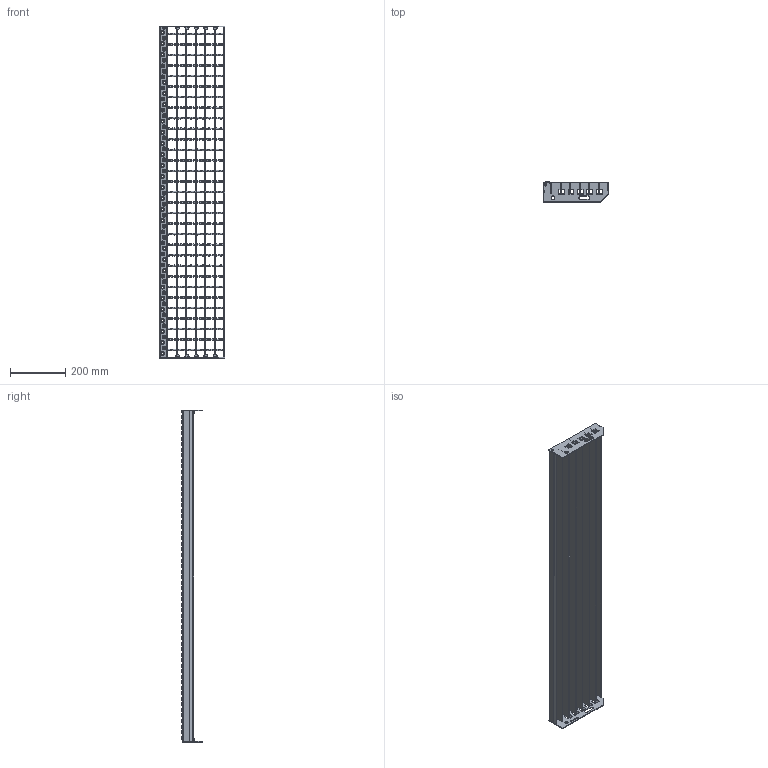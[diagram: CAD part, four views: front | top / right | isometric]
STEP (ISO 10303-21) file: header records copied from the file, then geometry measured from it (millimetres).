
FILE_DESCRIPTION(/* description */ ('','CAx-IF Rec.Pracs.---Representation and Presentation of Product Manufacturing Information (PMI)---3.8---2014-02-18'),/* implementation_level */ '2;1');
FILE_NAME(/* name */ 'C:\Users\phaverkotte\Desktop\Lager STEP\SP-Stufen\SP 340-34 38-3\SP 340-34 38-3 1200mm x240mm.stp',/* time_stamp */ '2018-03-24T11:53:49+01:00',/* author */ ('phaverkotte'),/* organization */ (''),/* preprocessor_version */ 'ST-DEVELOPER v16.13',/* originating_system */ 'Autodesk Inventor 2018',/* authorisation */ '');
FILE_SCHEMA (('AP242_MANAGED_MODEL_BASED_3D_ENGINEERING_MIM_LF { 1 0 10303 442 1 1 4 }'));
Length unit declared in the file: millimetre
Products named in the file (8): Stufe SP; Seitenplatte ausgeklinkt links; Seitenplatte 240 ausgeklinkt extern rechts; Schod nášlap; SP Rošt schodu; Nosny pas; Krouceny drat; Hinteres Flach
Assembly tree (42 placements, depth 3):
  Stufe SP
    Seitenplatte ausgeklinkt links
    Seitenplatte 240 ausgeklinkt extern rechts
    Schod nášlap
    SP Rošt schodu
      Nosny pas  x6
      Krouceny drat  x31
      Hinteres Flach
Bounding box: 236.98 x 72.75 x 1200 mm (x, y, z)
Volume: 1316374.4 mm3; surface area: 1019724 mm2
Topology: 41 solids, 41 shells, 1258 faces, 3358 edges, 2199 vertices
Faces by surface type: plane 576, cylinder 298, cone 180, bspline 144, torus 60
Full cylindrical faces by diameter (mm): 8 x2, 13 x2
Entity records: 26044 total; most frequent: CARTESIAN_POINT 7860, DIRECTION 3714, ORIENTED_EDGE 3300, EDGE_CURVE 1650, AXIS2_PLACEMENT_3D 1351, VERTEX_POINT 1181, EDGE_LOOP 1145, LINE 1012
